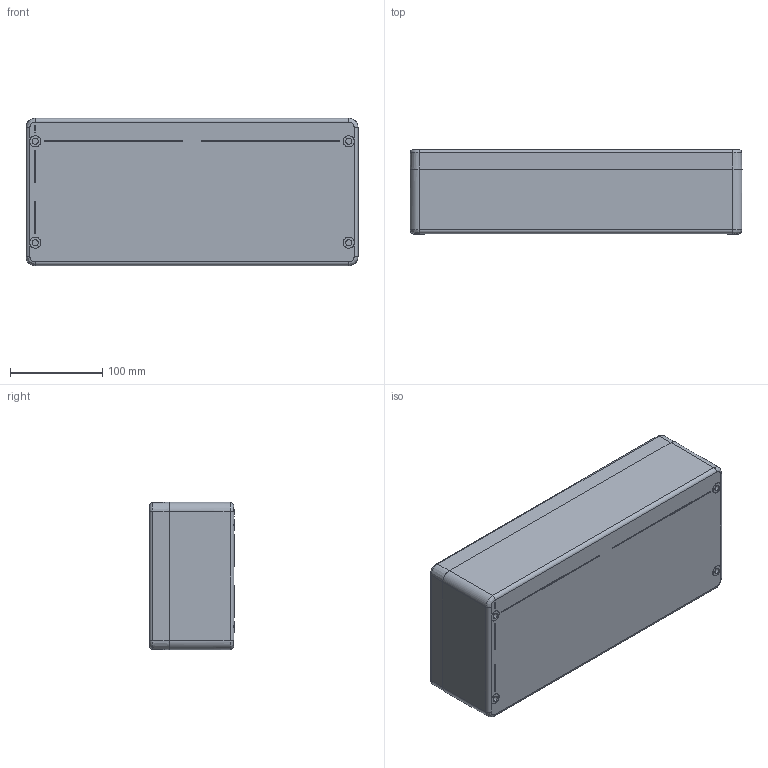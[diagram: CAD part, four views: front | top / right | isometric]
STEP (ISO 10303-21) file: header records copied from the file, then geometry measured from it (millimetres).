
FILE_DESCRIPTION((''),'2;1');
FILE_NAME('4324000000_ASM','2023-12-06T11:05:46',('silke.otte'),(''),'CREO PARAMETRIC BY PTC INC, 2022124','CREO PARAMETRIC BY PTC INC, 2022124','');
FILE_SCHEMA(('AUTOMOTIVE_DESIGN { 1 0 10303 214 1 1 1 1 }'));
Length unit declared in the file: millimetre
Products named in the file (12): 9331009000; 9502218000; 9502217000; 9331009000_ASM; 9332009000; CP-DICHTUNG_45; 9614003900_ASM; 9262006000; 9261022000; 9258857000; 9258838000; 4324000000_ASM
Assembly tree (26 placements, depth 3):
  4324000000_ASM
    9331009000_ASM
      9331009000
      9502218000  x6
      9502217000  x4
    9614003900_ASM
      9332009000
      CP-DICHTUNG_45
    9262006000  x4
    9261022000  x4
    9258857000  x2
    9258838000
Bounding box: 360 x 91.6 x 160 mm (x, y, z)
Volume: 1256820 mm3; surface area: 443963.5 mm2
Topology: 24 solids, 38 shells, 2256 faces, 9787 edges, 11302 vertices
Faces by surface type: plane 1624, cone 404, cylinder 178, bspline 26, torus 24
Entity records: 53013 total; most frequent: CARTESIAN_POINT 11776, DIRECTION 6458, ORIENTED_EDGE 3916, VECTOR 3191, LINE 3191, PRESENTATION_STYLE_ASSIGNMENT 2343, STYLED_ITEM 2322, CURVE_STYLE 2311
